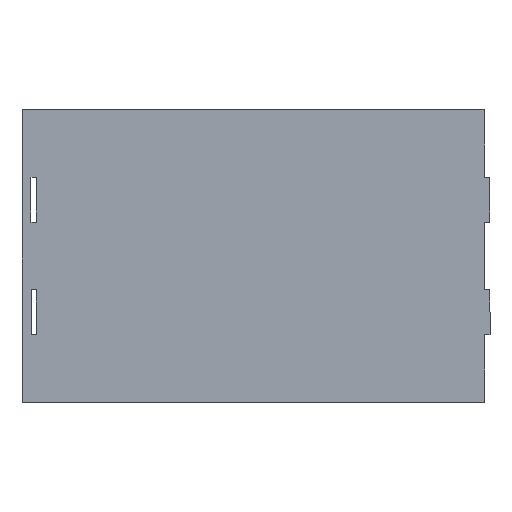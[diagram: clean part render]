
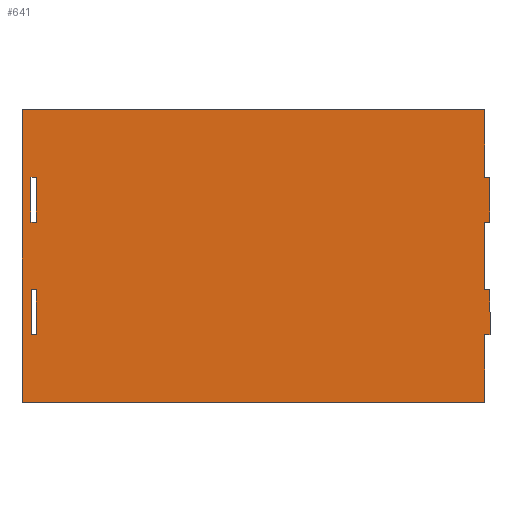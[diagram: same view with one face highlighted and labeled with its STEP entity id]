
A CAD part, top view. The second image highlights one B-rep face of the part: STEP entity #641.
In plain terms, the highlighted planar face has unit normal (0, 0, 1).
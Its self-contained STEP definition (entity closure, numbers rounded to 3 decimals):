
#1 = ORIENTED_EDGE ( 'NONE', *, *, #262, .T. ) ;
#3 = EDGE_LOOP ( 'NONE', ( #18, #191, #139, #627, #36, #735, #1, #207, #414, #556, #71, #112 ) ) ;
#13 = CARTESIAN_POINT ( 'NONE',  ( -146.733, 194.634, 10. ) ) ;
#16 = CARTESIAN_POINT ( 'NONE',  ( -1186.733, 344.634, 10. ) ) ;
#18 = ORIENTED_EDGE ( 'NONE', *, *, #568, .T. ) ;
#20 = CARTESIAN_POINT ( 'NONE',  ( -158.733, 194.634, 10. ) ) ;
#23 = EDGE_CURVE ( 'NONE', #575, #388, #614, .T. ) ;
#31 = CARTESIAN_POINT ( 'NONE',  ( -146.733, 194.634, 10. ) ) ;
#36 = ORIENTED_EDGE ( 'NONE', *, *, #23, .T. ) ;
#37 = VECTOR ( 'NONE', #606, 1000. ) ;
#38 = VECTOR ( 'NONE', #236, 1000. ) ;
#39 = CARTESIAN_POINT ( 'NONE',  ( -146.733, -155.366, 10. ) ) ;
#43 = CARTESIAN_POINT ( 'NONE',  ( -158.733, -155.366, 10. ) ) ;
#50 = VECTOR ( 'NONE', #281, 1000. ) ;
#51 = DIRECTION ( 'NONE',  ( 0., 1., 0. ) ) ;
#61 = VERTEX_POINT ( 'NONE', #667 ) ;
#64 = VECTOR ( 'NONE', #252, 1000. ) ;
#65 = DIRECTION ( 'NONE',  ( -1., 0., 0. ) ) ;
#71 = ORIENTED_EDGE ( 'NONE', *, *, #588, .T. ) ;
#75 = VECTOR ( 'NONE', #697, 1000. ) ;
#78 = LINE ( 'NONE', #647, #138 ) ;
#98 = VECTOR ( 'NONE', #560, 1000. ) ;
#100 = VECTOR ( 'NONE', #495, 1000. ) ;
#106 = LINE ( 'NONE', #350, #267 ) ;
#107 = VERTEX_POINT ( 'NONE', #170 ) ;
#108 = EDGE_CURVE ( 'NONE', #483, #234, #466, .T. ) ;
#112 = ORIENTED_EDGE ( 'NONE', *, *, #589, .T. ) ;
#114 = CARTESIAN_POINT ( 'NONE',  ( -1154.733, -55.366, 10. ) ) ;
#125 = DIRECTION ( 'NONE',  ( 1., 0., 0. ) ) ;
#126 = ORIENTED_EDGE ( 'NONE', *, *, #147, .F. ) ;
#128 = LINE ( 'NONE', #482, #550 ) ;
#131 = CARTESIAN_POINT ( 'NONE',  ( -1154.733, -155.366, 10. ) ) ;
#132 = DIRECTION ( 'NONE',  ( 0., -1., 0. ) ) ;
#138 = VECTOR ( 'NONE', #132, 1000. ) ;
#139 = ORIENTED_EDGE ( 'NONE', *, *, #695, .T. ) ;
#147 = EDGE_CURVE ( 'NONE', #61, #107, #685, .T. ) ;
#154 = DIRECTION ( 'NONE',  ( 0., 1., 0. ) ) ;
#161 = VECTOR ( 'NONE', #125, 1000. ) ;
#167 = VERTEX_POINT ( 'NONE', #577 ) ;
#170 = CARTESIAN_POINT ( 'NONE',  ( -1154.733, 94.634, 10. ) ) ;
#174 = CARTESIAN_POINT ( 'NONE',  ( -146.733, 94.634, 10. ) ) ;
#179 = CARTESIAN_POINT ( 'NONE',  ( -158.733, 344.634, 10. ) ) ;
#181 = VERTEX_POINT ( 'NONE', #179 ) ;
#190 = CARTESIAN_POINT ( 'NONE',  ( -146.733, 194.634, 10. ) ) ;
#191 = ORIENTED_EDGE ( 'NONE', *, *, #227, .T. ) ;
#195 = LINE ( 'NONE', #376, #75 ) ;
#199 = ORIENTED_EDGE ( 'NONE', *, *, #505, .F. ) ;
#201 = EDGE_CURVE ( 'NONE', #488, #474, #128, .T. ) ;
#203 = CARTESIAN_POINT ( 'NONE',  ( -158.733, -305.366, 10. ) ) ;
#204 = VECTOR ( 'NONE', #319, 1000. ) ;
#207 = ORIENTED_EDGE ( 'NONE', *, *, #201, .T. ) ;
#212 = FACE_BOUND ( 'NONE', #285, .T. ) ;
#215 = CARTESIAN_POINT ( 'NONE',  ( -158.733, -155.366, 10. ) ) ;
#221 = CARTESIAN_POINT ( 'NONE',  ( -146.733, -55.366, 10. ) ) ;
#225 = CARTESIAN_POINT ( 'NONE',  ( -1166.733, 194.634, 10. ) ) ;
#227 = EDGE_CURVE ( 'NONE', #344, #327, #531, .T. ) ;
#231 = LINE ( 'NONE', #215, #409 ) ;
#234 = VERTEX_POINT ( 'NONE', #264 ) ;
#236 = DIRECTION ( 'NONE',  ( -1., 0., 0. ) ) ;
#238 = VERTEX_POINT ( 'NONE', #190 ) ;
#252 = DIRECTION ( 'NONE',  ( 0., 1., 0. ) ) ;
#257 = DIRECTION ( 'NONE',  ( 0., -1., 0. ) ) ;
#262 = EDGE_CURVE ( 'NONE', #648, #488, #195, .T. ) ;
#264 = CARTESIAN_POINT ( 'NONE',  ( -1166.733, -55.366, 10. ) ) ;
#266 = VECTOR ( 'NONE', #458, 1000. ) ;
#267 = VECTOR ( 'NONE', #51, 1000. ) ;
#269 = LINE ( 'NONE', #13, #100 ) ;
#270 = CARTESIAN_POINT ( 'NONE',  ( -158.733, 194.634, 10. ) ) ;
#273 = LINE ( 'NONE', #339, #37 ) ;
#281 = DIRECTION ( 'NONE',  ( 1., 0., 0. ) ) ;
#285 = EDGE_LOOP ( 'NONE', ( #126, #702, #428, #730 ) ) ;
#286 = EDGE_CURVE ( 'NONE', #234, #499, #78, .T. ) ;
#290 = DIRECTION ( 'NONE',  ( -1., 0., 0. ) ) ;
#294 = LINE ( 'NONE', #401, #653 ) ;
#318 = LINE ( 'NONE', #20, #64 ) ;
#319 = DIRECTION ( 'NONE',  ( 1., 0., 0. ) ) ;
#320 = VECTOR ( 'NONE', #65, 1000. ) ;
#327 = VERTEX_POINT ( 'NONE', #203 ) ;
#329 = LINE ( 'NONE', #39, #50 ) ;
#339 = CARTESIAN_POINT ( 'NONE',  ( -1166.733, 194.634, 10. ) ) ;
#344 = VERTEX_POINT ( 'NONE', #457 ) ;
#350 = CARTESIAN_POINT ( 'NONE',  ( -1154.733, 194.634, 10. ) ) ;
#354 = VERTEX_POINT ( 'NONE', #270 ) ;
#362 = DIRECTION ( 'NONE',  ( 0., 0., 1. ) ) ;
#366 = FACE_OUTER_BOUND ( 'NONE', #3, .T. ) ;
#370 = VECTOR ( 'NONE', #673, 1000. ) ;
#371 = EDGE_CURVE ( 'NONE', #586, #483, #501, .T. ) ;
#372 = DIRECTION ( 'NONE',  ( -1., 0., 0. ) ) ;
#373 = CARTESIAN_POINT ( 'NONE',  ( -1186.733, -305.366, 10. ) ) ;
#376 = CARTESIAN_POINT ( 'NONE',  ( -158.733, 94.634, 10. ) ) ;
#380 = EDGE_CURVE ( 'NONE', #451, #61, #273, .T. ) ;
#388 = VERTEX_POINT ( 'NONE', #221 ) ;
#401 = CARTESIAN_POINT ( 'NONE',  ( -1166.733, -155.366, 10. ) ) ;
#405 = EDGE_CURVE ( 'NONE', #238, #354, #721, .T. ) ;
#407 = CARTESIAN_POINT ( 'NONE',  ( -1166.733, 94.634, 10. ) ) ;
#409 = VECTOR ( 'NONE', #154, 1000. ) ;
#410 = VERTEX_POINT ( 'NONE', #43 ) ;
#414 = ORIENTED_EDGE ( 'NONE', *, *, #657, .T. ) ;
#428 = ORIENTED_EDGE ( 'NONE', *, *, #530, .F. ) ;
#433 = CARTESIAN_POINT ( 'NONE',  ( 0., 0., 10. ) ) ;
#436 = LINE ( 'NONE', #649, #665 ) ;
#443 = EDGE_CURVE ( 'NONE', #410, #575, #329, .T. ) ;
#451 = VERTEX_POINT ( 'NONE', #225 ) ;
#457 = CARTESIAN_POINT ( 'NONE',  ( -1186.733, -305.366, 10. ) ) ;
#458 = DIRECTION ( 'NONE',  ( 0., 1., 0. ) ) ;
#465 = CARTESIAN_POINT ( 'NONE',  ( -158.733, 94.634, 10. ) ) ;
#466 = LINE ( 'NONE', #476, #320 ) ;
#474 = VERTEX_POINT ( 'NONE', #174 ) ;
#476 = CARTESIAN_POINT ( 'NONE',  ( -1166.733, -55.366, 10. ) ) ;
#482 = CARTESIAN_POINT ( 'NONE',  ( -146.733, 94.634, 10. ) ) ;
#483 = VERTEX_POINT ( 'NONE', #114 ) ;
#488 = VERTEX_POINT ( 'NONE', #465 ) ;
#489 = CARTESIAN_POINT ( 'NONE',  ( -1186.733, 344.634, 10. ) ) ;
#492 = EDGE_CURVE ( 'NONE', #107, #167, #106, .T. ) ;
#493 = CARTESIAN_POINT ( 'NONE',  ( -146.733, -155.366, 10. ) ) ;
#495 = DIRECTION ( 'NONE',  ( 0., 1., 0. ) ) ;
#499 = VERTEX_POINT ( 'NONE', #621 ) ;
#501 = LINE ( 'NONE', #729, #370 ) ;
#505 = EDGE_CURVE ( 'NONE', #499, #586, #294, .T. ) ;
#513 = EDGE_CURVE ( 'NONE', #388, #648, #736, .T. ) ;
#515 = CARTESIAN_POINT ( 'NONE',  ( -146.733, -55.366, 10. ) ) ;
#519 = CARTESIAN_POINT ( 'NONE',  ( -1166.733, 194.634, 10. ) ) ;
#520 = EDGE_LOOP ( 'NONE', ( #199, #633, #638, #602 ) ) ;
#530 = EDGE_CURVE ( 'NONE', #167, #451, #681, .T. ) ;
#531 = LINE ( 'NONE', #373, #204 ) ;
#538 = VECTOR ( 'NONE', #290, 1000. ) ;
#550 = VECTOR ( 'NONE', #701, 1000. ) ;
#556 = ORIENTED_EDGE ( 'NONE', *, *, #405, .T. ) ;
#560 = DIRECTION ( 'NONE',  ( -1., 0., 0. ) ) ;
#568 = EDGE_CURVE ( 'NONE', #636, #344, #605, .T. ) ;
#569 = DIRECTION ( 'NONE',  ( 1., 0., 0. ) ) ;
#575 = VERTEX_POINT ( 'NONE', #493 ) ;
#577 = CARTESIAN_POINT ( 'NONE',  ( -1154.733, 194.634, 10. ) ) ;
#586 = VERTEX_POINT ( 'NONE', #131 ) ;
#588 = EDGE_CURVE ( 'NONE', #354, #181, #318, .T. ) ;
#589 = EDGE_CURVE ( 'NONE', #181, #636, #436, .T. ) ;
#590 = CARTESIAN_POINT ( 'NONE',  ( -158.733, -55.366, 10. ) ) ;
#602 = ORIENTED_EDGE ( 'NONE', *, *, #371, .F. ) ;
#603 = DIRECTION ( 'NONE',  ( 1., 0., 0. ) ) ;
#605 = LINE ( 'NONE', #16, #643 ) ;
#606 = DIRECTION ( 'NONE',  ( 0., -1., 0. ) ) ;
#614 = LINE ( 'NONE', #674, #266 ) ;
#621 = CARTESIAN_POINT ( 'NONE',  ( -1166.733, -155.366, 10. ) ) ;
#627 = ORIENTED_EDGE ( 'NONE', *, *, #443, .T. ) ;
#633 = ORIENTED_EDGE ( 'NONE', *, *, #286, .F. ) ;
#636 = VERTEX_POINT ( 'NONE', #489 ) ;
#638 = ORIENTED_EDGE ( 'NONE', *, *, #108, .F. ) ;
#641 = ADVANCED_FACE ( 'NONE', ( #366, #212, #708 ), #646, .T. ) ;
#643 = VECTOR ( 'NONE', #257, 1000. ) ;
#646 = PLANE ( 'NONE',  #699 ) ;
#647 = CARTESIAN_POINT ( 'NONE',  ( -1166.733, -55.366, 10. ) ) ;
#648 = VERTEX_POINT ( 'NONE', #590 ) ;
#649 = CARTESIAN_POINT ( 'NONE',  ( -1186.733, 344.634, 10. ) ) ;
#653 = VECTOR ( 'NONE', #569, 1000. ) ;
#657 = EDGE_CURVE ( 'NONE', #474, #238, #269, .T. ) ;
#665 = VECTOR ( 'NONE', #372, 1000. ) ;
#667 = CARTESIAN_POINT ( 'NONE',  ( -1166.733, 94.634, 10. ) ) ;
#673 = DIRECTION ( 'NONE',  ( 0., 1., 0. ) ) ;
#674 = CARTESIAN_POINT ( 'NONE',  ( -146.733, -55.366, 10. ) ) ;
#681 = LINE ( 'NONE', #519, #38 ) ;
#685 = LINE ( 'NONE', #407, #161 ) ;
#695 = EDGE_CURVE ( 'NONE', #327, #410, #231, .T. ) ;
#697 = DIRECTION ( 'NONE',  ( 0., 1., 0. ) ) ;
#699 = AXIS2_PLACEMENT_3D ( 'NONE', #433, #362, #603 ) ;
#701 = DIRECTION ( 'NONE',  ( 1., 0., 0. ) ) ;
#702 = ORIENTED_EDGE ( 'NONE', *, *, #380, .F. ) ;
#708 = FACE_BOUND ( 'NONE', #520, .T. ) ;
#721 = LINE ( 'NONE', #31, #98 ) ;
#729 = CARTESIAN_POINT ( 'NONE',  ( -1154.733, -55.366, 10. ) ) ;
#730 = ORIENTED_EDGE ( 'NONE', *, *, #492, .F. ) ;
#735 = ORIENTED_EDGE ( 'NONE', *, *, #513, .T. ) ;
#736 = LINE ( 'NONE', #515, #538 ) ;
